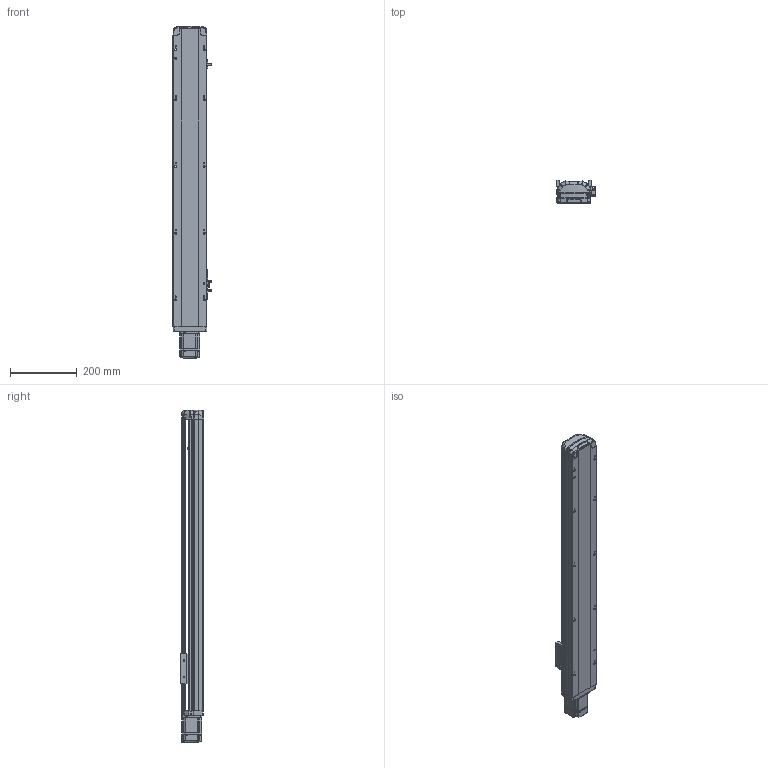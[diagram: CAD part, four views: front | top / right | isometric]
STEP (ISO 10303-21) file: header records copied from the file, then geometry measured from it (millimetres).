
FILE_DESCRIPTION (( 'STEP AP214' ), '1' );
FILE_NAME ('RTH10-XX-650-E-M20-C4.STEP', '2025-10-24T10:46:16', ( '' ), ( '' ), 'SwSTEP 2.0', 'SolidWorks 2018', '' );
FILE_SCHEMA (( 'AUTOMOTIVE_DESIGN' ));
Length unit declared in the file: millimetre
Products named in the file (9): N_RTH12-GY-004-滑座^RTH10-XX-XX-E-M20-C4（方程式）; N_RTH12-E-007P-奻裔^RTH10-XX-XX-E-M20-C4ㄗ源最宒ㄘ; N_200W-1^RTH10-XX-XX-E-M20-C4（方程式）; N_RTH12-E-008-M20电机板^RTH10-XX-XX-E-M20-C4（方程式）; N_OMRON EE-SX672 換覜ん^RTH10-XX-XX-E-M20-C4ㄗ源最宒ㄘ; N_RTH13-L-012感应片外置^RTH10-XX-XX-E-M20-C4（方程式）; N_RTH12-E-011P-臏倰第菁釱^RTH10-XX-XX-E-M20-C4ㄗ源最宒ㄘ; RTH10-XX-650-E-M20-C4; N_RTH12-GY-001P^RTH10-XX-XX-E-M20-C4（方程式）
Assembly tree (10 placements, depth 2):
  RTH10-XX-650-E-M20-C4
    N_RTH12-E-011P-臏倰第菁釱^RTH10-XX-XX-E-M20-C4ㄗ源最宒ㄘ
    N_RTH13-L-012感应片外置^RTH10-XX-XX-E-M20-C4（方程式）
    N_OMRON EE-SX672 換覜ん^RTH10-XX-XX-E-M20-C4ㄗ源最宒ㄘ  x3
    N_RTH12-E-007P-奻裔^RTH10-XX-XX-E-M20-C4ㄗ源最宒ㄘ
    N_RTH12-GY-001P^RTH10-XX-XX-E-M20-C4（方程式）
    N_RTH12-GY-004-滑座^RTH10-XX-XX-E-M20-C4（方程式）
    N_200W-1^RTH10-XX-XX-E-M20-C4（方程式）
    N_RTH12-E-008-M20电机板^RTH10-XX-XX-E-M20-C4（方程式）
Bounding box: 116.5 x 70 x 995.14 mm (x, y, z)
Volume: 3802734.9 mm3; surface area: 594223 mm2
Topology: 9 solids, 11 shells, 2008 faces, 5584 edges, 3666 vertices
Faces by surface type: plane 1008, cylinder 493, bspline 472, cone 33, torus 2
Entity records: 60434 total; most frequent: CARTESIAN_POINT 23530, ORIENTED_EDGE 8248, DIRECTION 6420, EDGE_CURVE 4130, VERTEX_POINT 2710, VECTOR 2228, LINE 2228, AXIS2_PLACEMENT_3D 2096
